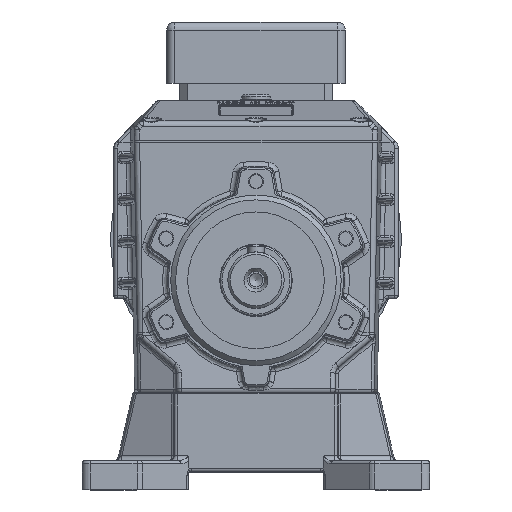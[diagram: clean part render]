
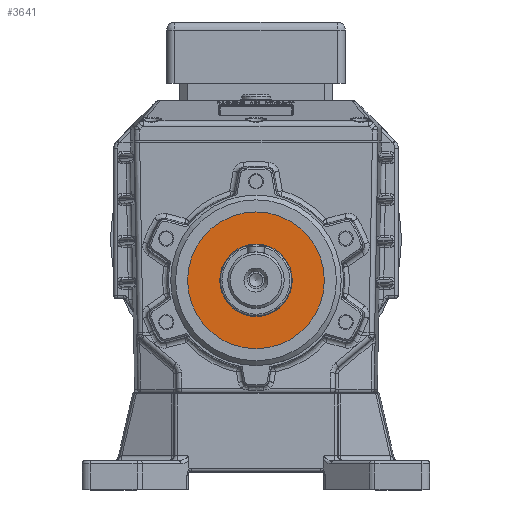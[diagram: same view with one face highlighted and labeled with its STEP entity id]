
A CAD part, top view. The second image highlights one B-rep face of the part: STEP entity #3641.
In plain terms, the highlighted planar face has unit normal (0, 0, 1).
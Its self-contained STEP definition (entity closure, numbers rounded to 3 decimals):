
#3641 = ADVANCED_FACE( '', ( #8107, #8108 ), #8109, .F. );
#8107 = FACE_BOUND( '', #18258, .T. );
#8108 = FACE_OUTER_BOUND( '', #18259, .T. );
#8109 = PLANE( '', #18260 );
#18258 = EDGE_LOOP( '', ( #32469 ) );
#18259 = EDGE_LOOP( '', ( #32470 ) );
#18260 = AXIS2_PLACEMENT_3D( '', #32471, #32472, #32473 );
#32469 = ORIENTED_EDGE( '', *, *, #42093, .T. );
#32470 = ORIENTED_EDGE( '', *, *, #42094, .F. );
#32471 = CARTESIAN_POINT( '', ( 0., 0., 12. ) );
#32472 = DIRECTION( '', ( 0., 0., -1. ) );
#32473 = DIRECTION( '', ( 1., 0., 0. ) );
#42093 = EDGE_CURVE( '', #49791, #49791, #49792, .T. );
#42094 = EDGE_CURVE( '', #49793, #49793, #49794, .T. );
#49791 = VERTEX_POINT( '', #65353 );
#49792 = CIRCLE( '', #65354, 22.5 );
#49793 = VERTEX_POINT( '', #65355 );
#49794 = CIRCLE( '', #65356, 42.5 );
#65353 = CARTESIAN_POINT( '', ( 0., 22.5, 12. ) );
#65354 = AXIS2_PLACEMENT_3D( '', #72809, #72810, #72811 );
#65355 = CARTESIAN_POINT( '', ( 0., 42.5, 12. ) );
#65356 = AXIS2_PLACEMENT_3D( '', #72812, #72813, #72814 );
#72809 = CARTESIAN_POINT( '', ( 0., 0., 12. ) );
#72810 = DIRECTION( '', ( 0., 0., -1. ) );
#72811 = DIRECTION( '', ( 0., 1., 0. ) );
#72812 = CARTESIAN_POINT( '', ( 0., 0., 12. ) );
#72813 = DIRECTION( '', ( 0., 0., -1. ) );
#72814 = DIRECTION( '', ( 0., 1., 0. ) );
